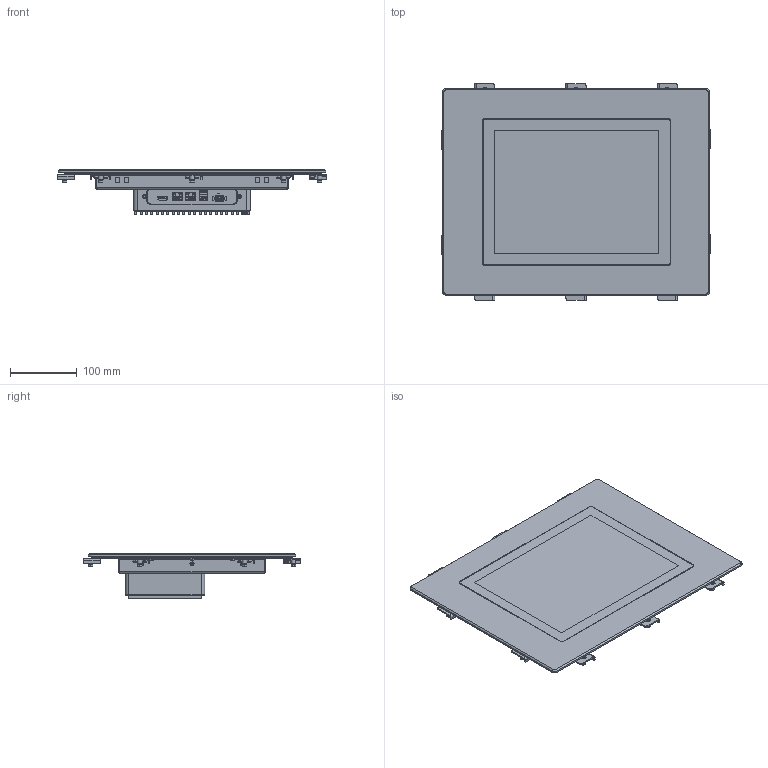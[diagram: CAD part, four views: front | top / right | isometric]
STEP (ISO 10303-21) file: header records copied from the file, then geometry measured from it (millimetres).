
FILE_DESCRIPTION(/* description */ (''),/* implementation_level */ '2;1');
FILE_NAME(/* name */ '778-11180_CAD_001_00_ipt.stp',/* time_stamp */ '2026-08-03T15:47:34+02:00',/* author */ ('Blessing'),/* organization */ ('TRsystems GmbH'),/* preprocessor_version */ 'ST-DEVELOPER v20',/* originating_system */ 'Autodesk Inventor 2024',/* authorisation */ '');
FILE_SCHEMA (('CONFIG_CONTROL_DESIGN'));
Products named in the file (1): 778-11180_000
Bounding box: 402.5 x 324.5 x 67.05 mm (x, y, z)
Volume: 2924096.2 mm3; surface area: 485336.3 mm2
Topology: 1 solids, 1 shells, 3386 faces, 8587 edges, 5424 vertices
Faces by surface type: plane 1828, cylinder 1123, cone 384, torus 49, sphere 2
Full cylindrical faces by diameter (mm): 0.434 x1, 1.4 x2, 2.8 x1, 3 x6, 3.5 x6, 4 x20, 4.7 x2, 5.5 x6, 5.54 x8, 6.6 x10, 7 x31, 7.11 x10, 7.2 x10
Entity records: 115988 total; most frequent: CARTESIAN_POINT 32467, ORIENTED_EDGE 17114, DIRECTION 15604, EDGE_CURVE 8557, VERTEX_POINT 5440, LINE 5322, VECTOR 5322, AXIS2_PLACEMENT_3D 5141
